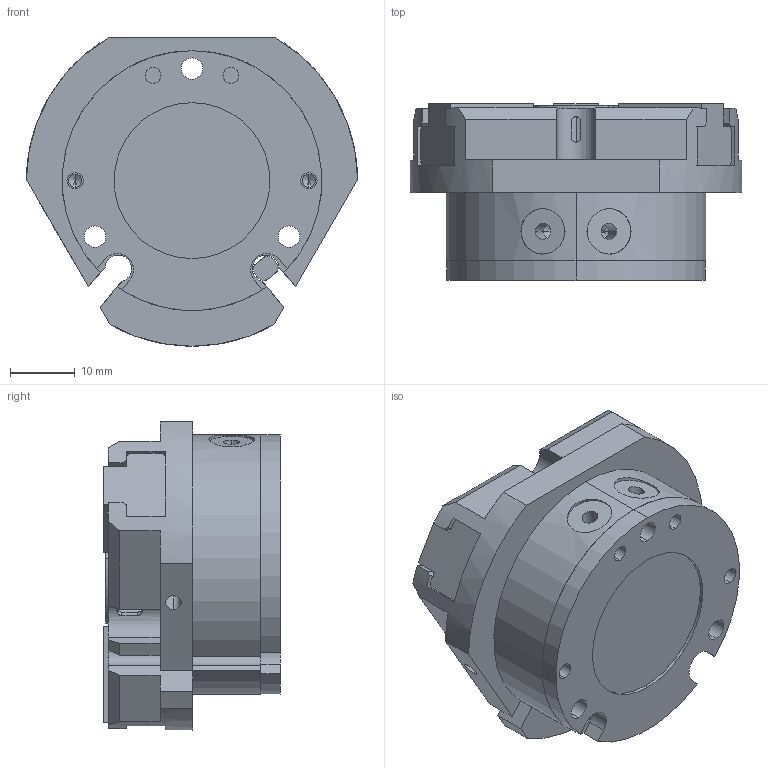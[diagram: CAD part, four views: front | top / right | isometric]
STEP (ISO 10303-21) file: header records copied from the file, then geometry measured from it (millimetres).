
FILE_DESCRIPTION (( 'STEP AP214' ), '1' );
FILE_NAME ('FCT 40A-1.STEP', '2021-09-15T09:47:36', ( 'DEEP' ), ( 'Microsoft' ), 'SwSTEP 2.0', 'SolidWorks 2016', '' );
FILE_SCHEMA (( 'AUTOMOTIVE_DESIGN' ));
Length unit declared in the file: millimetre
Products named in the file (13): FCT 40A-1-002; FCT 40A-1-001; FCT 40A-1-006; FCT 40A-1-003; FCT  40A-1; FCT 40A-1-004
Assembly tree (7 placements, depth 2):
  FCT 40A-1-002
  FCT 40A-1-002
  FCT 40A-1-002
  FCT 40A-1-001
  FCT 40A-1-006
Bounding box: 51 x 27.2 x 47.5 mm (x, y, z)
Volume: 35537 mm3; surface area: 17226.8 mm2
Topology: 7 solids, 7 shells, 372 faces, 956 edges, 604 vertices
Faces by surface type: plane 185, cylinder 127, cone 60
Entity records: 9713 total; most frequent: CARTESIAN_POINT 1923, DIRECTION 1614, ORIENTED_EDGE 1516, EDGE_CURVE 758, AXIS2_PLACEMENT_3D 579, VERTEX_POINT 496, VECTOR 456, LINE 456
